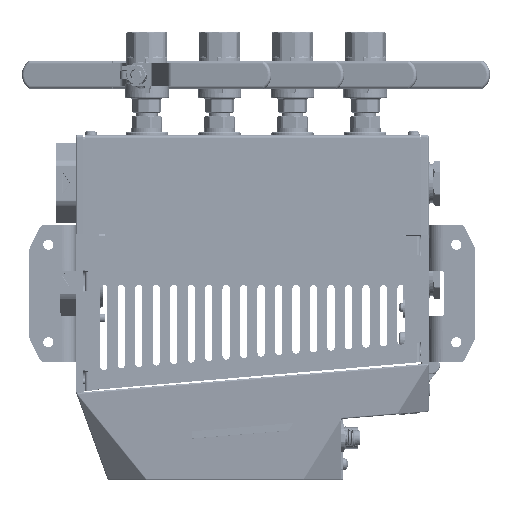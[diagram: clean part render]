
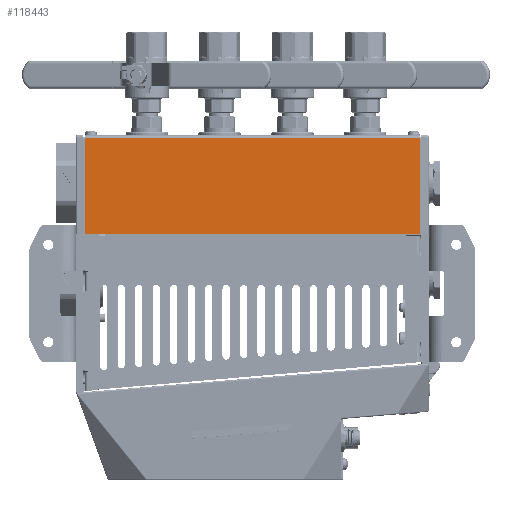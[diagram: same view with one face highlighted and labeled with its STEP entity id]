
A CAD part, left-side view. The second image highlights one B-rep face of the part: STEP entity #118443.
In plain terms, the highlighted planar face has unit normal (-1, 0, 0) as drawn and (0, -1, 0) by its records, which use the part's own axes.
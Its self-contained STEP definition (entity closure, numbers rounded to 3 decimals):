
#2753 = DIRECTION ( 'NONE',  ( 1., 0., 0. ) ) ;
#2835 = DIRECTION ( 'NONE',  ( 0., -1., 0. ) ) ;
#4501 = LINE ( 'NONE', #34184, #183316 ) ;
#4674 = FACE_OUTER_BOUND ( 'NONE', #185958, .T. ) ;
#27955 = AXIS2_PLACEMENT_3D ( 'NONE', #223972, #54760, #2753 ) ;
#34184 = CARTESIAN_POINT ( 'NONE',  ( 0., -84., -115. ) ) ;
#34355 = CARTESIAN_POINT ( 'NONE',  ( 0., -84., 115. ) ) ;
#42856 = VERTEX_POINT ( 'NONE', #96286 ) ;
#45681 = CIRCLE ( 'NONE', #27955, 1. ) ;
#48593 = LINE ( 'NONE', #193548, #150053 ) ;
#54760 = DIRECTION ( 'NONE',  ( 0., -1., 0. ) ) ;
#64004 = DIRECTION ( 'NONE',  ( 1., 0., 0. ) ) ;
#73501 = AXIS2_PLACEMENT_3D ( 'NONE', #263512, #293283, #94442 ) ;
#85181 = VECTOR ( 'NONE', #325749, 1000. ) ;
#88935 = VERTEX_POINT ( 'NONE', #361965 ) ;
#89934 = EDGE_CURVE ( 'NONE', #165496, #42856, #4501, .T. ) ;
#94442 = DIRECTION ( 'NONE',  ( 1., 0., 0. ) ) ;
#96286 = CARTESIAN_POINT ( 'NONE',  ( -67., -84., -115. ) ) ;
#101550 = DIRECTION ( 'NONE',  ( 0., 0., -1. ) ) ;
#110624 = CARTESIAN_POINT ( 'NONE',  ( -68., -84., 114. ) ) ;
#111050 = VECTOR ( 'NONE', #101550, 1000. ) ;
#116208 = VERTEX_POINT ( 'NONE', #251649 ) ;
#118443 = ADVANCED_FACE ( 'NONE', ( #4674 ), #318768, .T. ) ;
#143122 = ORIENTED_EDGE ( 'NONE', *, *, #89934, .F. ) ;
#144952 = CIRCLE ( 'NONE', #73501, 1. ) ;
#145936 = ORIENTED_EDGE ( 'NONE', *, *, #147031, .T. ) ;
#147031 = EDGE_CURVE ( 'NONE', #88935, #116208, #214131, .T. ) ;
#148073 = EDGE_CURVE ( 'NONE', #116208, #299676, #144952, .T. ) ;
#150053 = VECTOR ( 'NONE', #221510, 1000. ) ;
#157343 = LINE ( 'NONE', #348871, #111050 ) ;
#165496 = VERTEX_POINT ( 'NONE', #198642 ) ;
#181443 = EDGE_CURVE ( 'NONE', #88935, #165496, #48593, .T. ) ;
#183316 = VECTOR ( 'NONE', #342768, 1000. ) ;
#185958 = EDGE_LOOP ( 'NONE', ( #344175, #299866, #143122, #283331, #145936, #330804 ) ) ;
#193330 = AXIS2_PLACEMENT_3D ( 'NONE', #34355, #2835, #64004 ) ;
#193548 = CARTESIAN_POINT ( 'NONE',  ( -2., -84., 115. ) ) ;
#198642 = CARTESIAN_POINT ( 'NONE',  ( -2., -84., -115. ) ) ;
#214131 = LINE ( 'NONE', #275417, #85181 ) ;
#221510 = DIRECTION ( 'NONE',  ( 0., 0., -1. ) ) ;
#223972 = CARTESIAN_POINT ( 'NONE',  ( -67., -84., -114. ) ) ;
#251649 = CARTESIAN_POINT ( 'NONE',  ( -67., -84., 115. ) ) ;
#263512 = CARTESIAN_POINT ( 'NONE',  ( -67., -84., 114. ) ) ;
#275417 = CARTESIAN_POINT ( 'NONE',  ( 0., -84., 115. ) ) ;
#283331 = ORIENTED_EDGE ( 'NONE', *, *, #181443, .F. ) ;
#293283 = DIRECTION ( 'NONE',  ( 0., -1., 0. ) ) ;
#294110 = VERTEX_POINT ( 'NONE', #360005 ) ;
#299676 = VERTEX_POINT ( 'NONE', #110624 ) ;
#299866 = ORIENTED_EDGE ( 'NONE', *, *, #310838, .T. ) ;
#310838 = EDGE_CURVE ( 'NONE', #294110, #42856, #45681, .T. ) ;
#318768 = PLANE ( 'NONE',  #193330 ) ;
#324540 = EDGE_CURVE ( 'NONE', #299676, #294110, #157343, .T. ) ;
#325749 = DIRECTION ( 'NONE',  ( -1., 0., 0. ) ) ;
#330804 = ORIENTED_EDGE ( 'NONE', *, *, #148073, .T. ) ;
#342768 = DIRECTION ( 'NONE',  ( -1., 0., 0. ) ) ;
#344175 = ORIENTED_EDGE ( 'NONE', *, *, #324540, .T. ) ;
#348871 = CARTESIAN_POINT ( 'NONE',  ( -68., -84., 115. ) ) ;
#360005 = CARTESIAN_POINT ( 'NONE',  ( -68., -84., -114. ) ) ;
#361965 = CARTESIAN_POINT ( 'NONE',  ( -2., -84., 115. ) ) ;
